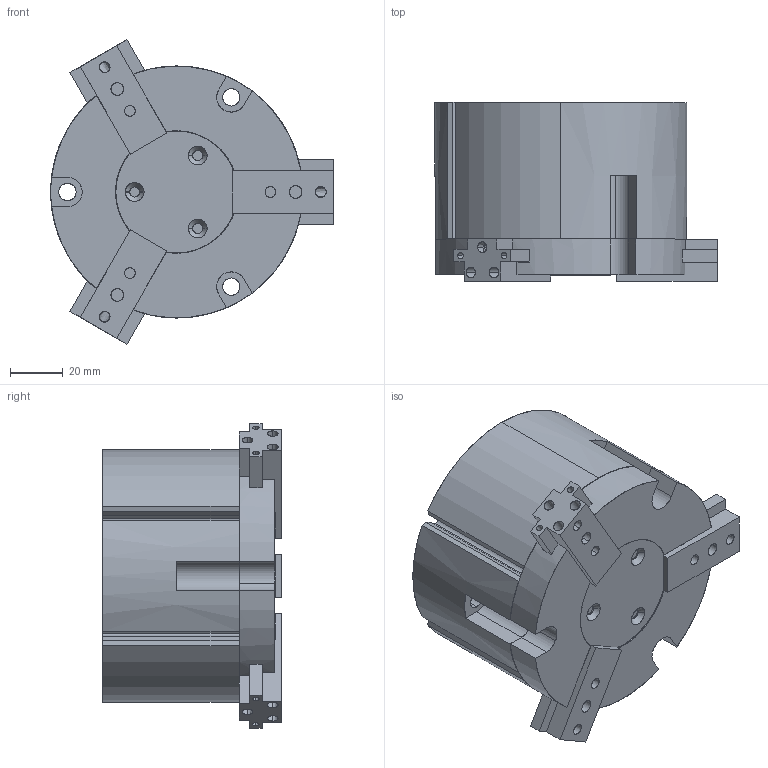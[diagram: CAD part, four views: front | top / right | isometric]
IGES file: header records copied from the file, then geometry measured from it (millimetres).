
Start section: SolidWorks IGES file using analytic representation for surfaces
Global section: file name: C:\Users\jmkuhnes\Pictures\My Transfers\AGP-63\AGP-63 OPEN in MM.IGS; native system: SolidWorks 2013; preprocessor: SolidWorks 2013; author: jmkuhnes; date: 141105.083816; units: millimetre
Bounding box: 106.81 x 67.54 x 114.95 mm (x, y, z)
Surface area: 79800.3 mm2 (no closed solid volume)
Topology: 0 solids, 0 shells, 340 faces, 5069 edges, 5035 vertices
Faces by surface type: revolution 189, bspline 151
